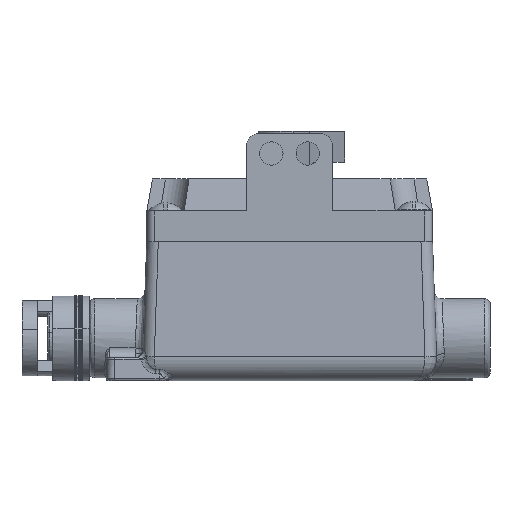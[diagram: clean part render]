
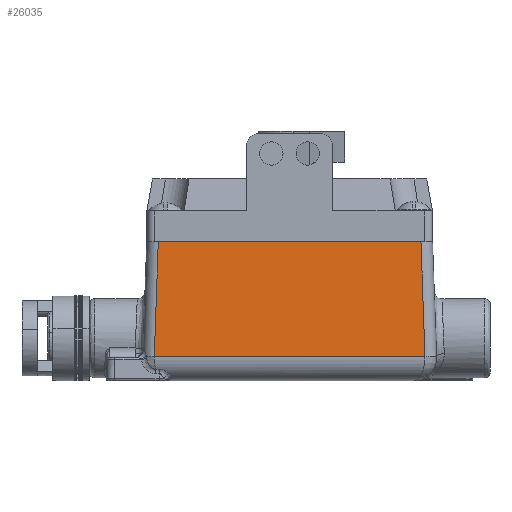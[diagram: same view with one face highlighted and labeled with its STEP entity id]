
A CAD part, top view. The second image highlights one B-rep face of the part: STEP entity #26035.
In plain terms, the highlighted planar face has unit normal (0, 0.035, 0.999) as drawn and (0, -0.999, 0.035) by its records, which use the part's own axes.
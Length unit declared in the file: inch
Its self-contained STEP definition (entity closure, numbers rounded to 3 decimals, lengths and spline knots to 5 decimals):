
#1016 = LINE ( 'NONE', #28247, #42400 ) ;
#1624 = ORIENTED_EDGE ( 'NONE', *, *, #17386, .T. ) ;
#1957 = LINE ( 'NONE', #11631, #18071 ) ;
#3535 = LINE ( 'NONE', #10558, #18594 ) ;
#3626 = DIRECTION ( 'NONE',  ( 0., -0.999, 0.035 ) ) ;
#4577 = LINE ( 'NONE', #12029, #20866 ) ;
#5384 = VERTEX_POINT ( 'NONE', #42595 ) ;
#10362 = ORIENTED_EDGE ( 'NONE', *, *, #17945, .F. ) ;
#10494 = CARTESIAN_POINT ( 'NONE',  ( 2.1273, -1.50218, -0.0625 ) ) ;
#10558 = CARTESIAN_POINT ( 'NONE',  ( 1.15625, -1.5672, -1.92441 ) ) ;
#10647 = PLANE ( 'NONE',  #36818 ) ;
#11631 = CARTESIAN_POINT ( 'NONE',  ( 2.19232, -1.5672, -1.92441 ) ) ;
#12029 = CARTESIAN_POINT ( 'NONE',  ( -2.1273, -1.50218, -0.0625 ) ) ;
#17386 = EDGE_CURVE ( 'NONE', #27530, #39866, #1016, .T. ) ;
#17945 = EDGE_CURVE ( 'NONE', #28145, #5384, #3535, .T. ) ;
#18071 = VECTOR ( 'NONE', #21977, 39.37008 ) ;
#18594 = VECTOR ( 'NONE', #39831, 39.37008 ) ;
#18606 = DIRECTION ( 'NONE',  ( -1., 0., 0. ) ) ;
#19954 = CARTESIAN_POINT ( 'NONE',  ( 2.19232, -1.5672, -1.92441 ) ) ;
#20151 = CARTESIAN_POINT ( 'NONE',  ( 2.3125, -1.5, 0. ) ) ;
#20866 = VECTOR ( 'NONE', #31371, 39.37008 ) ;
#21679 = EDGE_LOOP ( 'NONE', ( #10362, #27584, #1624, #26739 ) ) ;
#21977 = DIRECTION ( 'NONE',  ( -0.035, 0.035, 0.999 ) ) ;
#26035 = ADVANCED_FACE ( 'NONE', ( #27371 ), #10647, .T. ) ;
#26739 = ORIENTED_EDGE ( 'NONE', *, *, #29097, .T. ) ;
#27371 = FACE_OUTER_BOUND ( 'NONE', #21679, .T. ) ;
#27530 = VERTEX_POINT ( 'NONE', #10494 ) ;
#27584 = ORIENTED_EDGE ( 'NONE', *, *, #31412, .T. ) ;
#28145 = VERTEX_POINT ( 'NONE', #19954 ) ;
#28247 = CARTESIAN_POINT ( 'NONE',  ( 2.3125, -1.50218, -0.0625 ) ) ;
#29097 = EDGE_CURVE ( 'NONE', #39866, #5384, #4577, .T. ) ;
#31371 = DIRECTION ( 'NONE',  ( -0.035, -0.035, -0.999 ) ) ;
#31412 = EDGE_CURVE ( 'NONE', #28145, #27530, #1957, .T. ) ;
#33723 = DIRECTION ( 'NONE',  ( 0., -0.035, -0.999 ) ) ;
#35813 = CARTESIAN_POINT ( 'NONE',  ( -2.1273, -1.50218, -0.0625 ) ) ;
#36818 = AXIS2_PLACEMENT_3D ( 'NONE', #20151, #3626, #33723 ) ;
#39831 = DIRECTION ( 'NONE',  ( -1., 0., 0. ) ) ;
#39866 = VERTEX_POINT ( 'NONE', #35813 ) ;
#42400 = VECTOR ( 'NONE', #18606, 39.37008 ) ;
#42595 = CARTESIAN_POINT ( 'NONE',  ( -2.19232, -1.5672, -1.92441 ) ) ;
